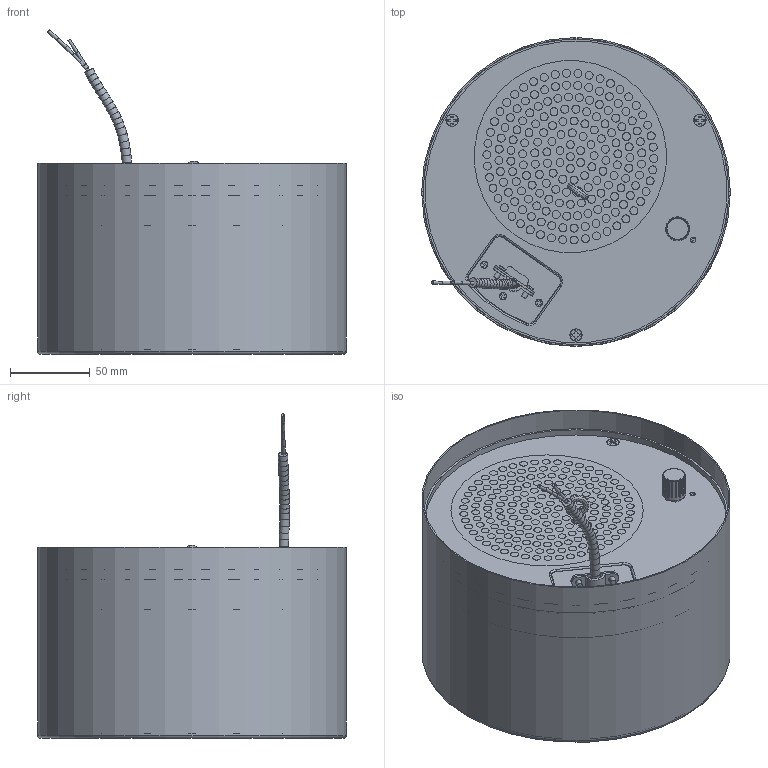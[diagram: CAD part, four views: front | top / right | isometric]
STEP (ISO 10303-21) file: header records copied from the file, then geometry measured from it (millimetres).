
FILE_DESCRIPTION(/* description */ (''),/* implementation_level */ '2;1');
FILE_NAME(/* name */ 'A175-ED-6B-W-3D图.stp',/* time_stamp */ '2020-10-10T21:49:37+08:00',/* author */ (''),/* organization */ (''),/* preprocessor_version */ 'ST-DEVELOPER v16.7',/* originating_system */ 'SIEMENS PLM Software NX 12.0',/* authorisation */ '');
FILE_SCHEMA (('AUTOMOTIVE_DESIGN { 1 0 10303 214 3 1 1 1 }'));
Length unit declared in the file: millimetre
Products named in the file (14): 螺丝2; 螺丝; 开关挡板; 小部件3; 小部件4; 开关02; 小部件2; 各类小部件; 盖板; 变压器2; 面板; 螺丝3; 喇叭; A175-ED-6B-W-3D图_stp
Assembly tree (23 placements, depth 3):
  A175-ED-6B-W-3D图_stp
    螺丝3
    面板
    喇叭
      螺丝3  x4
    变压器2
    盖板
    各类小部件
    小部件2
    开关02
    小部件4
    小部件3
    开关挡板
    螺丝  x3
    螺丝2  x5
Bounding box: 194.1 x 194.1 x 204.07 mm (x, y, z)
Volume: 302784.7 mm3; surface area: 426056 mm2
Topology: 35 solids, 35 shells, 1323 faces, 3329 edges, 2118 vertices
Faces by surface type: plane 580, cylinder 449, torus 263, cone 19, sphere 8, bspline 3, extrusion 1
Full cylindrical faces by diameter (mm): 3.25 x5, 3.3 x3, 3.4 x5, 3.5 x5, 4 x15, 4.2 x2, 4.45 x5, 4.5 x3, 4.745 x1, 5 x195, 5.6 x3, 6 x4, 6.225 x1, 7 x5, 13.336 x1, 29.877 x1, 41.9 x1, 45.5 x1, 73.2 x2, 75 x2, 78.2 x1, 80 x1, 111.72 x1, 120.942 x1, 130 x1, 131.8 x1, 189.9 x1, 192 x1, 192.3 x1, 192.5 x2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
Entity records: 33976 total; most frequent: CARTESIAN_POINT 6878, DIRECTION 5686, ORIENTED_EDGE 4604, AXIS2_PLACEMENT_3D 2386, EDGE_CURVE 2302, EDGE_LOOP 2174, VERTEX_POINT 1776, FACE_BOUND 1629
